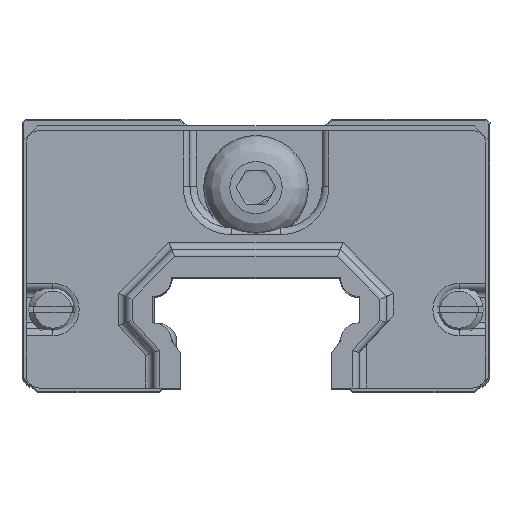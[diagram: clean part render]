
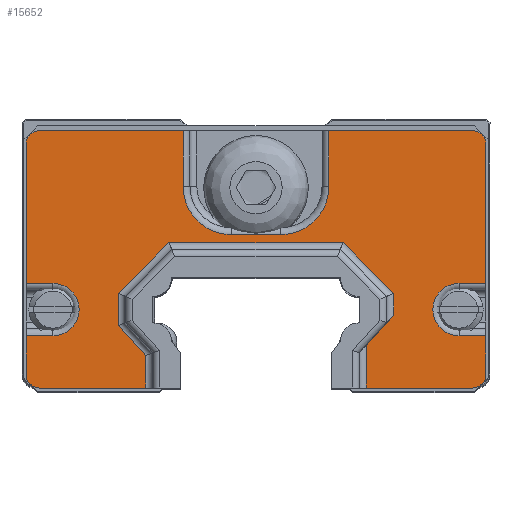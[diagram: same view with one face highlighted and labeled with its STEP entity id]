
A CAD part, top view. The second image highlights one B-rep face of the part: STEP entity #15652.
In plain terms, the highlighted planar face has unit normal (0, 0, 1).
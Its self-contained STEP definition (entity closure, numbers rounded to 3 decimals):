
#1451=CIRCLE('',#17666,1.);
#1460=CIRCLE('',#17677,1.);
#1461=CIRCLE('',#17678,1.9);
#1462=CIRCLE('',#17679,1.);
#1463=CIRCLE('',#17680,3.5);
#1464=CIRCLE('',#17681,3.5);
#1465=CIRCLE('',#17682,1.);
#1466=CIRCLE('',#17683,1.9);
#2667=FACE_OUTER_BOUND('',#3658,.T.);
#3658=EDGE_LOOP('',(#13927,#13928,#13929,#13930,#13931,#13932,#13933,#13934,
#13935,#13936,#13937,#13938,#13939,#13940,#13941,#13942,#13943,#13944,#13945,
#13946,#13947,#13948,#13949,#13950,#13951,#13952,#13953,#13954,#13955,#13956,
#13957,#13958));
#4943=LINE('',#26998,#6297);
#4991=LINE('',#27148,#6345);
#4993=LINE('',#27160,#6347);
#4996=LINE('',#27173,#6350);
#4997=LINE('',#27175,#6351);
#4998=LINE('',#27177,#6352);
#4999=LINE('',#27179,#6353);
#5000=LINE('',#27181,#6354);
#5001=LINE('',#27183,#6355);
#5002=LINE('',#27185,#6356);
#5003=LINE('',#27187,#6357);
#5004=LINE('',#27189,#6358);
#5005=LINE('',#27190,#6359);
#5006=LINE('',#27194,#6360);
#5007=LINE('',#27196,#6361);
#5008=LINE('',#27200,#6362);
#5009=LINE('',#27202,#6363);
#5010=LINE('',#27206,#6364);
#5011=LINE('',#27208,#6365);
#5012=LINE('',#27212,#6366);
#5013=LINE('',#27216,#6367);
#5014=LINE('',#27218,#6368);
#5015=LINE('',#27221,#6369);
#5016=LINE('',#27224,#6370);
#6297=VECTOR('',#21792,10.);
#6345=VECTOR('',#21932,10.);
#6347=VECTOR('',#21942,10.);
#6350=VECTOR('',#21955,10.);
#6351=VECTOR('',#21956,10.);
#6352=VECTOR('',#21957,10.);
#6353=VECTOR('',#21958,10.);
#6354=VECTOR('',#21959,10.);
#6355=VECTOR('',#21960,10.);
#6356=VECTOR('',#21961,10.);
#6357=VECTOR('',#21962,10.);
#6358=VECTOR('',#21963,10.);
#6359=VECTOR('',#21964,10.);
#6360=VECTOR('',#21967,10.);
#6361=VECTOR('',#21968,10.);
#6362=VECTOR('',#21971,10.);
#6363=VECTOR('',#21972,10.);
#6364=VECTOR('',#21975,10.);
#6365=VECTOR('',#21976,10.);
#6366=VECTOR('',#21979,10.);
#6367=VECTOR('',#21982,10.);
#6368=VECTOR('',#21983,10.);
#6369=VECTOR('',#21986,10.);
#6370=VECTOR('',#21989,10.);
#7840=VERTEX_POINT('',#26995);
#7841=VERTEX_POINT('',#26997);
#7895=VERTEX_POINT('',#27141);
#7896=VERTEX_POINT('',#27142);
#7897=VERTEX_POINT('',#27147);
#7902=VERTEX_POINT('',#27157);
#7903=VERTEX_POINT('',#27159);
#7908=VERTEX_POINT('',#27172);
#7909=VERTEX_POINT('',#27174);
#7910=VERTEX_POINT('',#27176);
#7911=VERTEX_POINT('',#27178);
#7912=VERTEX_POINT('',#27180);
#7913=VERTEX_POINT('',#27182);
#7914=VERTEX_POINT('',#27184);
#7915=VERTEX_POINT('',#27186);
#7916=VERTEX_POINT('',#27188);
#7917=VERTEX_POINT('',#27191);
#7918=VERTEX_POINT('',#27193);
#7919=VERTEX_POINT('',#27195);
#7920=VERTEX_POINT('',#27197);
#7921=VERTEX_POINT('',#27199);
#7922=VERTEX_POINT('',#27201);
#7923=VERTEX_POINT('',#27203);
#7924=VERTEX_POINT('',#27205);
#7925=VERTEX_POINT('',#27207);
#7926=VERTEX_POINT('',#27209);
#7927=VERTEX_POINT('',#27211);
#7928=VERTEX_POINT('',#27213);
#7929=VERTEX_POINT('',#27215);
#7930=VERTEX_POINT('',#27217);
#7931=VERTEX_POINT('',#27220);
#7932=VERTEX_POINT('',#27222);
#9852=EDGE_CURVE('',#7841,#7840,#4943,.T.);
#9924=EDGE_CURVE('',#7895,#7896,#1451,.T.);
#9927=EDGE_CURVE('',#7896,#7897,#4991,.T.);
#9933=EDGE_CURVE('',#7902,#7903,#4993,.T.);
#9940=EDGE_CURVE('',#7908,#7895,#4996,.T.);
#9941=EDGE_CURVE('',#7909,#7908,#4997,.T.);
#9942=EDGE_CURVE('',#7910,#7909,#4998,.T.);
#9943=EDGE_CURVE('',#7911,#7910,#4999,.T.);
#9944=EDGE_CURVE('',#7912,#7911,#5000,.T.);
#9945=EDGE_CURVE('',#7913,#7912,#5001,.T.);
#9946=EDGE_CURVE('',#7914,#7913,#5002,.T.);
#9947=EDGE_CURVE('',#7915,#7914,#5003,.T.);
#9948=EDGE_CURVE('',#7915,#7916,#5004,.T.);
#9949=EDGE_CURVE('',#7841,#7916,#5005,.T.);
#9950=EDGE_CURVE('',#7917,#7840,#1460,.T.);
#9951=EDGE_CURVE('',#7917,#7918,#5006,.T.);
#9952=EDGE_CURVE('',#7919,#7918,#5007,.T.);
#9953=EDGE_CURVE('',#7920,#7919,#1461,.T.);
#9954=EDGE_CURVE('',#7921,#7920,#5008,.T.);
#9955=EDGE_CURVE('',#7921,#7922,#5009,.T.);
#9956=EDGE_CURVE('',#7923,#7922,#1462,.T.);
#9957=EDGE_CURVE('',#7923,#7924,#5010,.T.);
#9958=EDGE_CURVE('',#7925,#7924,#5011,.T.);
#9959=EDGE_CURVE('',#7926,#7925,#1463,.T.);
#9960=EDGE_CURVE('',#7927,#7926,#5012,.T.);
#9961=EDGE_CURVE('',#7928,#7927,#1464,.T.);
#9962=EDGE_CURVE('',#7929,#7928,#5013,.T.);
#9963=EDGE_CURVE('',#7929,#7930,#5014,.T.);
#9964=EDGE_CURVE('',#7903,#7930,#1465,.T.);
#9965=EDGE_CURVE('',#7931,#7902,#5015,.T.);
#9966=EDGE_CURVE('',#7932,#7931,#1466,.T.);
#9967=EDGE_CURVE('',#7897,#7932,#5016,.T.);
#13927=ORIENTED_EDGE('',*,*,#9924,.F.);
#13928=ORIENTED_EDGE('',*,*,#9940,.F.);
#13929=ORIENTED_EDGE('',*,*,#9941,.F.);
#13930=ORIENTED_EDGE('',*,*,#9942,.F.);
#13931=ORIENTED_EDGE('',*,*,#9943,.F.);
#13932=ORIENTED_EDGE('',*,*,#9944,.F.);
#13933=ORIENTED_EDGE('',*,*,#9945,.F.);
#13934=ORIENTED_EDGE('',*,*,#9946,.F.);
#13935=ORIENTED_EDGE('',*,*,#9947,.F.);
#13936=ORIENTED_EDGE('',*,*,#9948,.T.);
#13937=ORIENTED_EDGE('',*,*,#9949,.F.);
#13938=ORIENTED_EDGE('',*,*,#9852,.T.);
#13939=ORIENTED_EDGE('',*,*,#9950,.F.);
#13940=ORIENTED_EDGE('',*,*,#9951,.T.);
#13941=ORIENTED_EDGE('',*,*,#9952,.F.);
#13942=ORIENTED_EDGE('',*,*,#9953,.F.);
#13943=ORIENTED_EDGE('',*,*,#9954,.F.);
#13944=ORIENTED_EDGE('',*,*,#9955,.T.);
#13945=ORIENTED_EDGE('',*,*,#9956,.F.);
#13946=ORIENTED_EDGE('',*,*,#9957,.T.);
#13947=ORIENTED_EDGE('',*,*,#9958,.F.);
#13948=ORIENTED_EDGE('',*,*,#9959,.F.);
#13949=ORIENTED_EDGE('',*,*,#9960,.F.);
#13950=ORIENTED_EDGE('',*,*,#9961,.F.);
#13951=ORIENTED_EDGE('',*,*,#9962,.F.);
#13952=ORIENTED_EDGE('',*,*,#9963,.T.);
#13953=ORIENTED_EDGE('',*,*,#9964,.F.);
#13954=ORIENTED_EDGE('',*,*,#9933,.F.);
#13955=ORIENTED_EDGE('',*,*,#9965,.F.);
#13956=ORIENTED_EDGE('',*,*,#9966,.F.);
#13957=ORIENTED_EDGE('',*,*,#9967,.F.);
#13958=ORIENTED_EDGE('',*,*,#9927,.F.);
#14824=PLANE('',#17676);
#15652=ADVANCED_FACE('',(#2667),#14824,.T.);
#17666=AXIS2_PLACEMENT_3D('',#27143,#21926,#21927);
#17676=AXIS2_PLACEMENT_3D('',#27171,#21953,#21954);
#17677=AXIS2_PLACEMENT_3D('',#27192,#21965,#21966);
#17678=AXIS2_PLACEMENT_3D('',#27198,#21969,#21970);
#17679=AXIS2_PLACEMENT_3D('',#27204,#21973,#21974);
#17680=AXIS2_PLACEMENT_3D('',#27210,#21977,#21978);
#17681=AXIS2_PLACEMENT_3D('',#27214,#21980,#21981);
#17682=AXIS2_PLACEMENT_3D('',#27219,#21984,#21985);
#17683=AXIS2_PLACEMENT_3D('',#27223,#21987,#21988);
#21792=DIRECTION('',(1.,0.,0.));
#21926=DIRECTION('center_axis',(0.,0.,-1.));
#21927=DIRECTION('ref_axis',(-0.707,-0.707,0.));
#21932=DIRECTION('',(0.,1.,0.));
#21942=DIRECTION('',(0.,1.,0.));
#21953=DIRECTION('center_axis',(0.,0.,1.));
#21954=DIRECTION('ref_axis',(1.,0.,0.));
#21955=DIRECTION('',(-1.,0.,0.));
#21956=DIRECTION('',(0.,-1.,0.));
#21957=DIRECTION('',(0.675,-0.738,0.));
#21958=DIRECTION('',(0.,-1.,0.));
#21959=DIRECTION('',(-0.707,-0.707,0.));
#21960=DIRECTION('',(-1.,0.,0.));
#21961=DIRECTION('',(-0.707,0.707,0.));
#21962=DIRECTION('',(0.,1.,0.));
#21963=DIRECTION('',(-0.675,-0.738,0.));
#21964=DIRECTION('',(0.,1.,0.));
#21965=DIRECTION('center_axis',(0.,0.,-1.));
#21966=DIRECTION('ref_axis',(0.707,-0.707,0.));
#21967=DIRECTION('',(0.,1.,0.));
#21968=DIRECTION('',(1.,0.,0.));
#21969=DIRECTION('center_axis',(0.,0.,1.));
#21970=DIRECTION('ref_axis',(-1.,0.,0.));
#21971=DIRECTION('',(-1.,0.,0.));
#21972=DIRECTION('',(0.,1.,0.));
#21973=DIRECTION('center_axis',(0.,0.,-1.));
#21974=DIRECTION('ref_axis',(0.707,0.707,0.));
#21975=DIRECTION('',(-1.,0.,0.));
#21976=DIRECTION('',(0.,1.,0.));
#21977=DIRECTION('center_axis',(0.,0.,1.));
#21978=DIRECTION('ref_axis',(0.707,-0.707,0.));
#21979=DIRECTION('',(1.,0.,0.));
#21980=DIRECTION('center_axis',(0.,0.,1.));
#21981=DIRECTION('ref_axis',(-0.707,-0.707,0.));
#21982=DIRECTION('',(0.,-1.,0.));
#21983=DIRECTION('',(-1.,0.,0.));
#21984=DIRECTION('center_axis',(0.,0.,-1.));
#21985=DIRECTION('ref_axis',(-0.707,0.707,0.));
#21986=DIRECTION('',(-1.,0.,0.));
#21987=DIRECTION('center_axis',(0.,0.,1.));
#21988=DIRECTION('ref_axis',(1.,0.,0.));
#21989=DIRECTION('',(1.,0.,0.));
#26995=CARTESIAN_POINT('',(15.7,0.,0.5));
#26997=CARTESIAN_POINT('',(8.,0.,0.5));
#26998=CARTESIAN_POINT('',(16.7,0.,0.5));
#27141=CARTESIAN_POINT('',(-15.7,0.,0.5));
#27142=CARTESIAN_POINT('',(-16.7,1.,0.5));
#27143=CARTESIAN_POINT('Origin',(-15.7,1.,0.5));
#27147=CARTESIAN_POINT('',(-16.7,3.8,0.5));
#27148=CARTESIAN_POINT('',(-16.7,18.7,0.5));
#27157=CARTESIAN_POINT('',(-16.7,7.6,0.5));
#27159=CARTESIAN_POINT('',(-16.7,17.7,0.5));
#27160=CARTESIAN_POINT('',(-16.7,18.7,0.5));
#27171=CARTESIAN_POINT('Origin',(-8.988,9.847,0.5));
#27172=CARTESIAN_POINT('',(-8.,0.,0.5));
#27173=CARTESIAN_POINT('',(-16.7,0.,0.5));
#27174=CARTESIAN_POINT('',(-8.,2.356,0.5));
#27175=CARTESIAN_POINT('',(-8.,6.198,0.5));
#27176=CARTESIAN_POINT('',(-10.,4.542,0.5));
#27177=CARTESIAN_POINT('',(-11.025,5.662,0.5));
#27178=CARTESIAN_POINT('',(-10.,6.871,0.5));
#27179=CARTESIAN_POINT('',(-10.,8.255,0.5));
#27180=CARTESIAN_POINT('',(-6.321,10.55,0.5));
#27181=CARTESIAN_POINT('',(-7.237,9.634,0.5));
#27182=CARTESIAN_POINT('',(6.321,10.55,0.5));
#27183=CARTESIAN_POINT('',(-1.437,10.55,0.5));
#27184=CARTESIAN_POINT('',(10.,6.871,0.5));
#27185=CARTESIAN_POINT('',(4.436,12.435,0.5));
#27186=CARTESIAN_POINT('',(10.,5.282,0.5));
#27187=CARTESIAN_POINT('',(10.,7.291,0.5));
#27188=CARTESIAN_POINT('',(8.,3.097,0.5));
#27189=CARTESIAN_POINT('',(5.56,0.43,0.5));
#27190=CARTESIAN_POINT('',(8.,4.923,0.5));
#27191=CARTESIAN_POINT('',(16.7,1.,0.5));
#27192=CARTESIAN_POINT('Origin',(15.7,1.,0.5));
#27193=CARTESIAN_POINT('',(16.7,3.8,0.5));
#27194=CARTESIAN_POINT('',(16.7,18.7,0.5));
#27195=CARTESIAN_POINT('',(14.75,3.8,0.5));
#27196=CARTESIAN_POINT('',(2.881,3.8,0.5));
#27197=CARTESIAN_POINT('',(14.75,7.6,0.5));
#27198=CARTESIAN_POINT('Origin',(14.75,5.7,0.5));
#27199=CARTESIAN_POINT('',(16.7,7.6,0.5));
#27200=CARTESIAN_POINT('',(3.856,7.6,0.5));
#27201=CARTESIAN_POINT('',(16.7,17.7,0.5));
#27202=CARTESIAN_POINT('',(16.7,18.7,0.5));
#27203=CARTESIAN_POINT('',(15.7,18.7,0.5));
#27204=CARTESIAN_POINT('Origin',(15.7,17.7,0.5));
#27205=CARTESIAN_POINT('',(5.3,18.7,0.5));
#27206=CARTESIAN_POINT('',(0.,18.7,0.5));
#27207=CARTESIAN_POINT('',(5.3,14.65,0.5));
#27208=CARTESIAN_POINT('',(5.3,14.273,0.5));
#27209=CARTESIAN_POINT('',(1.8,11.15,0.5));
#27210=CARTESIAN_POINT('Origin',(1.8,14.65,0.5));
#27211=CARTESIAN_POINT('',(-1.8,11.15,0.5));
#27212=CARTESIAN_POINT('',(-2.094,11.15,0.5));
#27213=CARTESIAN_POINT('',(-5.3,14.65,0.5));
#27214=CARTESIAN_POINT('Origin',(-1.8,14.65,0.5));
#27215=CARTESIAN_POINT('',(-5.3,18.7,0.5));
#27216=CARTESIAN_POINT('',(-5.3,10.748,0.5));
#27217=CARTESIAN_POINT('',(-15.7,18.7,0.5));
#27218=CARTESIAN_POINT('',(0.,18.7,0.5));
#27219=CARTESIAN_POINT('Origin',(-15.7,17.7,0.5));
#27220=CARTESIAN_POINT('',(-14.75,7.6,0.5));
#27221=CARTESIAN_POINT('',(-12.844,7.6,0.5));
#27222=CARTESIAN_POINT('',(-14.75,3.8,0.5));
#27223=CARTESIAN_POINT('Origin',(-14.75,5.7,0.5));
#27224=CARTESIAN_POINT('',(-11.869,3.8,0.5));
